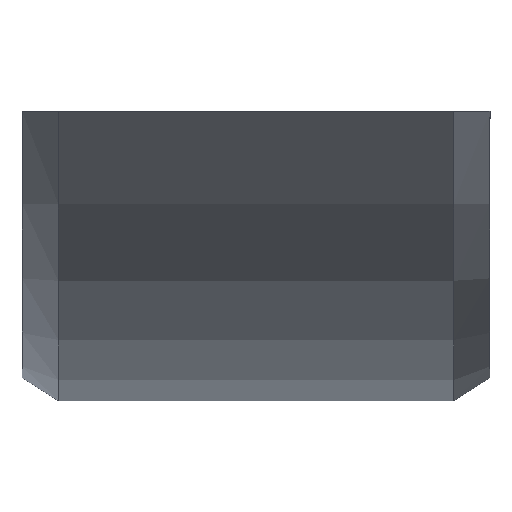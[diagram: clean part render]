
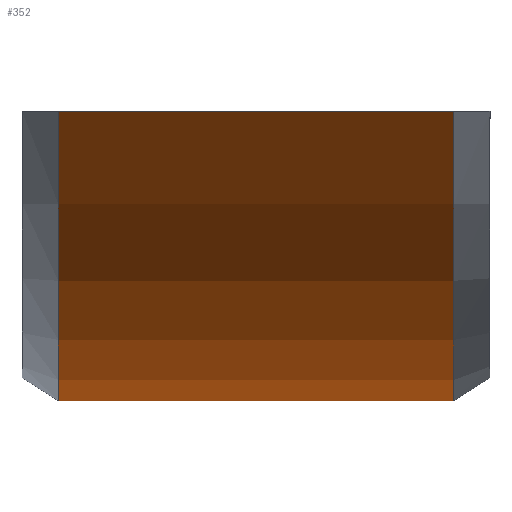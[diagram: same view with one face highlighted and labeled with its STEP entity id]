
A CAD part, top view. The second image highlights one B-rep face of the part: STEP entity #352.
In plain terms, the highlighted cylindrical face has radius 50 mm (diameter 100 mm), a partial arc.
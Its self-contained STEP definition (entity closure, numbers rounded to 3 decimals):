
#52=FACE_OUTER_BOUND('',#76,.T.);
#76=EDGE_LOOP('',(#319,#320,#321,#322));
#84=LINE('',#551,#110);
#90=LINE('',#571,#116);
#110=VECTOR('',#444,10.);
#116=VECTOR('',#450,10.);
#141=CIRCLE('',#400,50.);
#146=CIRCLE('',#411,50.);
#159=VERTEX_POINT('',#546);
#160=VERTEX_POINT('',#550);
#167=VERTEX_POINT('',#566);
#168=VERTEX_POINT('',#570);
#193=EDGE_CURVE('',#160,#159,#84,.T.);
#201=EDGE_CURVE('',#168,#167,#90,.T.);
#221=EDGE_CURVE('',#160,#167,#141,.T.);
#226=EDGE_CURVE('',#159,#168,#146,.T.);
#319=ORIENTED_EDGE('',*,*,#201,.T.);
#320=ORIENTED_EDGE('',*,*,#221,.F.);
#321=ORIENTED_EDGE('',*,*,#193,.T.);
#322=ORIENTED_EDGE('',*,*,#226,.T.);
#330=CYLINDRICAL_SURFACE('',#412,50.);
#352=ADVANCED_FACE('',(#52),#330,.T.);
#400=AXIS2_PLACEMENT_3D('',#610,#489,#490);
#411=AXIS2_PLACEMENT_3D('',#621,#511,#512);
#412=AXIS2_PLACEMENT_3D('',#622,#513,#514);
#444=DIRECTION('',(1.,0.,0.));
#450=DIRECTION('',(-1.,0.,0.));
#489=DIRECTION('center_axis',(-1.,0.,0.));
#490=DIRECTION('ref_axis',(0.,0.,-1.));
#511=DIRECTION('center_axis',(-1.,0.,0.));
#512=DIRECTION('ref_axis',(0.,0.,-1.));
#513=DIRECTION('center_axis',(-1.,0.,0.));
#514=DIRECTION('ref_axis',(0.,0.,-1.));
#546=CARTESIAN_POINT('',(10.386,-0.5,-35.999));
#550=CARTESIAN_POINT('',(-10.386,-0.5,-35.999));
#551=CARTESIAN_POINT('',(5.193,-0.5,-35.999));
#566=CARTESIAN_POINT('',(-10.386,-0.5,35.999));
#570=CARTESIAN_POINT('',(10.386,-0.5,35.999));
#571=CARTESIAN_POINT('',(5.193,-0.5,35.999));
#610=CARTESIAN_POINT('Origin',(-10.386,34.2,0.));
#621=CARTESIAN_POINT('Origin',(10.386,34.2,0.));
#622=CARTESIAN_POINT('Origin',(5.193,34.2,0.));
